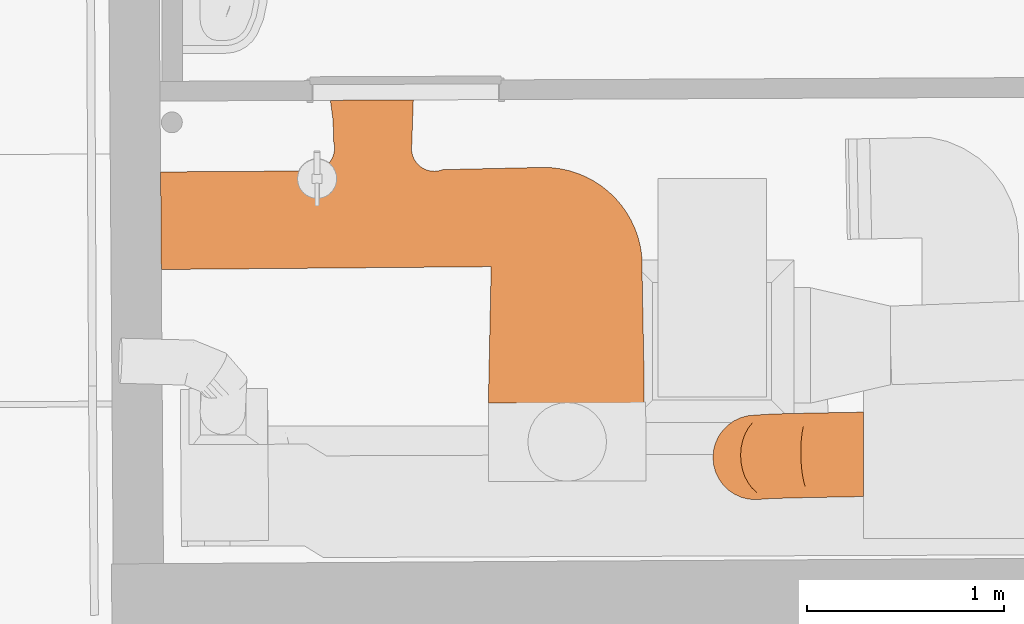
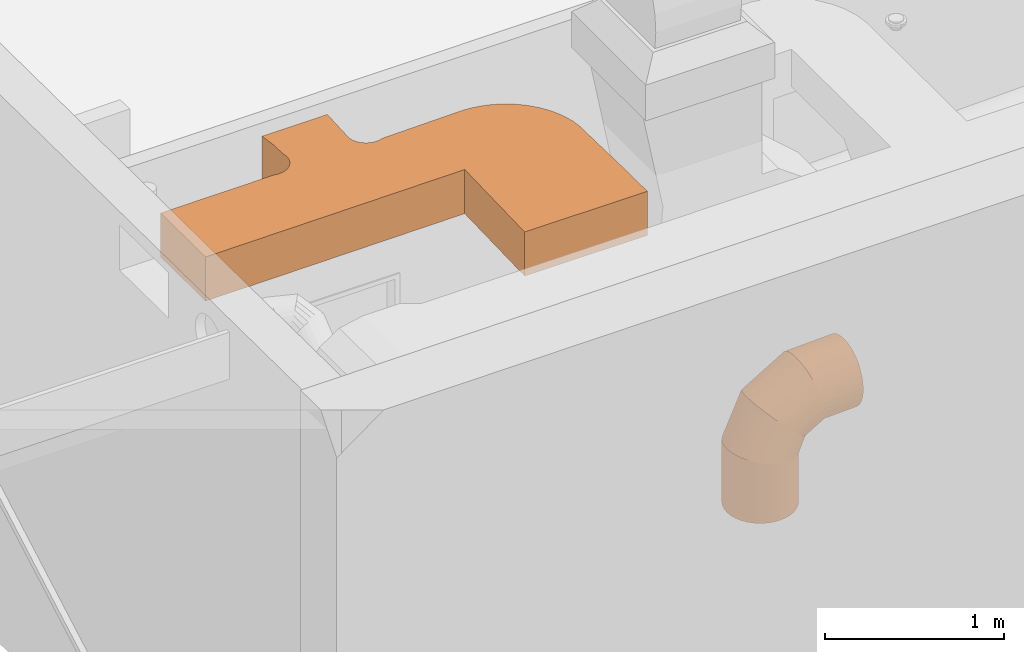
# One storey, part 147 of 158: 2 proxies.
"""IFC2X3 building model written with IfcOpenShell, lengths in metres."""

from ifc_helpers import new_model, entity, si_unit, converted_unit, derived_unit, money_unit, direction, frame, origin_with_axes, place, context, subcontext, project, spatial, faceted_brep, material, type_object, element, save


model = new_model("IFC2X3")

# Units and contexts
model_context = context("Model", 3, precision=1e-05, world=origin_with_axes(), true_north=direction((0.0, 1.0)))
body_context = subcontext(model_context, "Body", "Model", "MODEL_VIEW")
ifc_project = project(units=[si_unit("LENGTHUNIT", "METRE"), si_unit("AREAUNIT", "SQUARE_METRE"), si_unit("VOLUMEUNIT", "CUBIC_METRE"), converted_unit("PLANEANGLEUNIT", "DEGREE", entity("IfcPlaneAngleMeasure", 0.0174532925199), si_unit("PLANEANGLEUNIT", "RADIAN"), dimensions=[0, 0, 0, 0, 0, 0, 0]), money_unit("EUR"), converted_unit("TIMEUNIT", "Year", entity("IfcTimeMeasure", 31556926.0), si_unit("TIMEUNIT", "SECOND"), dimensions=[0, 0, 1, 0, 0, 0, 0]), si_unit("MASSUNIT", "GRAM", prefix="KILO"), si_unit("THERMODYNAMICTEMPERATUREUNIT", "DEGREE_CELSIUS"), si_unit("LUMINOUSINTENSITYUNIT", "LUMEN"), si_unit("ENERGYUNIT", "JOULE", prefix="MEGA"), derived_unit("THERMALCONDUCTANCEUNIT", [(si_unit("POWERUNIT", "WATT"), 1), (si_unit("LENGTHUNIT", "METRE"), -1), (si_unit("THERMODYNAMICTEMPERATUREUNIT", "KELVIN"), -1)]), derived_unit("SPECIFICHEATCAPACITYUNIT", [(si_unit("ENERGYUNIT", "JOULE"), 1), (si_unit("MASSUNIT", "GRAM", prefix="KILO"), -1), (si_unit("THERMODYNAMICTEMPERATUREUNIT", "KELVIN"), -1)]), derived_unit("MASSDENSITYUNIT", [(si_unit("MASSUNIT", "GRAM", prefix="KILO"), 1), (si_unit("VOLUMEUNIT", "CUBIC_METRE"), -1)])], contexts=[model_context])

# Site, building, storey
site_placement = place(None, origin_with_axes())
site = spatial("IfcSite", under=ifc_project, at=site_placement, Name="Gelände", CompositionType="ELEMENT")
building_placement = place(site_placement, origin_with_axes())
building = spatial("IfcBuilding", under=site, at=building_placement, Name="Gebäude", CompositionType="ELEMENT")
storey_placement = place(building_placement, origin_with_axes())
storey = spatial("IfcBuildingStorey", under=building, at=storey_placement, Name="ERDGESCHOSS", CompositionType="ELEMENT", Elevation=0.0)

# Proxies
ifc_material = material(Name="56_Metall, Stahl verzinkt")
building_element_proxy_type = type_object("IfcBuildingElementProxyType", Name="56_Metall, Stahl verzinkt", PredefinedType="NOTDEFINED")
proxy_1_placement = place(storey_placement, frame((-23.3833256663, 32.8052178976, 0.641435), z_axis=(0.0, 0.0, 1.0), x_axis=(1.0, 0.0, 0.0)))
element("IfcBuildingElementProxy", 1, at=proxy_1_placement, inside=storey, type_object=building_element_proxy_type, material=ifc_material, Name="Morph-325", context=body_context, shape_type="Brep", body=[
    faceted_brep([(-0.0179355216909, 0.496075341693, 4.06821488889), (-0.0179355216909, 0.496075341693, 3.76781288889), (-0.0142821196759, -0.000105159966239, 3.76781288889), (-0.0142821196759, -0.000105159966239, 4.06821488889), (0.717222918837, 0.500838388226, 4.06821488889), (0.717222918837, 0.500838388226, 3.76781288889), (0.727539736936, 0.498766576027, 3.76781288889), (0.737998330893, 0.497604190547, 3.76781288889), (0.748518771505, 0.49736011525, 3.76781288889), (0.759020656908, 0.498036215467, 3.76781288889), (0.769423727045, 0.499627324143, 3.76781288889), (0.779648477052, 0.502121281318, 3.76781288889), (0.789616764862, 0.505499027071, 3.76781288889), (0.799252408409, 0.509734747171, 3.76781288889), (0.808481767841, 0.514796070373, 3.76781288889), (0.817234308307, 0.520644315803, 3.76781288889), (0.82544313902, 0.527234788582, 3.76781288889), (0.833045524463, 0.5345171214, 3.76781288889), (0.83998336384, 0.542435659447, 3.76781288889), (0.846203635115, 0.55092988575, 3.76781288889), (0.85165880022, 0.559934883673, 3.76781288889), (0.856307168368, 0.569381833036, 3.76781288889), (0.860113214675, 0.579198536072, 3.76781288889), (0.863047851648, 0.58930996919, 3.76781288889), (0.865088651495, 0.599638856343, 3.76781288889), (0.866220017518, 0.610106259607, 3.76781288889), (0.866433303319, 0.62063218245, 3.76781288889), (0.865726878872, 0.631136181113, 3.76781288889), (0.864106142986, 0.641537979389, 3.76781288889), (0.861583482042, 0.651758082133, 3.76781288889), (0.859479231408, 0.75459927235, 3.76781288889), (0.845722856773, 0.860223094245, 3.76781288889), (1.26717317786, 0.862056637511, 3.76781288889), (1.25842250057, 0.610566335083, 3.76781288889), (1.25925216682, 0.600085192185, 3.76781288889), (1.26103568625, 0.589723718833, 3.76781288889), (1.26375816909, 0.579568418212, 3.76781288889), (1.26739688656, 0.569704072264, 3.76781288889), (1.2719214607, 0.560213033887, 3.76781288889), (1.2772941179, 0.551174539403, 3.76781288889), (1.28347000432, 0.542664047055, 3.76781288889), (1.29039756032, 0.534752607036, 3.76781288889), (1.29801895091, 0.527506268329, 3.76781288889), (1.3062705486, 0.520985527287, 3.76781288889), (1.31508346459, 0.515244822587, 3.76781288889), (1.32438412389, 0.510332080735, 3.76781288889), (1.33409487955, 0.50628831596, 3.76781288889), (1.34413466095, 0.503147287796, 3.76781288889), (1.35441965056, 0.500935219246, 3.76781288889), (1.36486398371, 0.499670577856, 3.76781288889), (1.37538046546, 0.499363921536, 3.76781288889), (1.38588129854, 0.500017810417, 3.76781288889), (1.3962788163, 0.501626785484, 3.76781288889), (1.40648621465, 0.504177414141, 3.76781288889), (1.4164182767, 0.507648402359, 3.76781288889), (1.9270160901, 0.51908666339, 3.76781288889), (1.9726043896, 0.517367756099, 3.76781288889), (2.0178483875, 0.511502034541, 3.76781288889), (2.06237172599, 0.501538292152, 3.76781288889), (2.10580404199, 0.487559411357, 3.76781288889), (2.147784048, 0.469681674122, 3.76781288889), (2.1879625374, 0.448053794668, 3.76781288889), (2.22600528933, 0.422855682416, 3.76781288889), (2.26159584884, 0.394296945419, 3.76781288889), (2.29443815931, 0.362615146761, 3.76781288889), (2.32425902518, 0.328073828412, 3.76781288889), (2.35081038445, 0.290960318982, 3.76781288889), (2.37387137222, 0.251583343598, 3.76781288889), (2.3932501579, 0.210270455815, 3.76781288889), (2.40878554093, 0.167365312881, 3.76781288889), (2.42034829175, 0.123224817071, 3.76781288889), (2.42784222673, 0.0782161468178, 3.76781288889), (2.4312050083, 0.0327137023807, 3.76781288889), (2.43040866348, -0.0129040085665, 3.76781288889), (2.43927064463, -0.479969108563, 3.76781288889), (2.43927064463, -0.678813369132, 3.76781288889), (1.6487870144, -0.678813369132, 3.76781288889), (1.66294415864, 0.0142541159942, 3.76781288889), (1.66294415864, 0.0142541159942, 4.06821488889), (0.748518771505, 0.49736011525, 4.06821488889), (0.737998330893, 0.497604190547, 4.06821488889), (0.727539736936, 0.498766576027, 4.06821488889), (1.6487870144, -0.678813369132, 4.06821488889), (2.43927064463, -0.678813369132, 4.06821488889), (2.43927064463, -0.479969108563, 4.06821488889), (2.43040866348, -0.0129040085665, 4.06821488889), (2.4312050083, 0.0327137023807, 4.06821488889), (2.42784222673, 0.0782161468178, 4.06821488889), (2.42034829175, 0.123224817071, 4.06821488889), (2.40878554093, 0.167365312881, 4.06821488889), (2.3932501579, 0.210270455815, 4.06821488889), (2.37387137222, 0.251583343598, 4.06821488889), (2.35081038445, 0.290960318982, 4.06821488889), (2.32425902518, 0.328073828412, 4.06821488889), (2.29443815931, 0.362615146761, 4.06821488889), (2.26159584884, 0.394296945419, 4.06821488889), (2.22600528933, 0.422855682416, 4.06821488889), (2.1879625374, 0.448053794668, 4.06821488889), (2.147784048, 0.469681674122, 4.06821488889), (2.10580404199, 0.487559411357, 4.06821488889), (2.06237172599, 0.501538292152, 4.06821488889), (2.0178483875, 0.511502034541, 4.06821488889), (1.9726043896, 0.517367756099, 4.06821488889), (1.9270160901, 0.51908666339, 4.06821488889), (1.4164182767, 0.507648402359, 4.06821488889), (1.40648621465, 0.504177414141, 4.06821488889), (1.3962788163, 0.501626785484, 4.06821488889), (1.38588129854, 0.500017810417, 4.06821488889), (1.37538046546, 0.499363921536, 4.06821488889), (1.36486398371, 0.499670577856, 4.06821488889), (1.35441965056, 0.500935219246, 4.06821488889), (1.34413466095, 0.503147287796, 4.06821488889), (1.33409487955, 0.50628831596, 4.06821488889), (1.32438412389, 0.510332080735, 4.06821488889), (1.31508346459, 0.515244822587, 4.06821488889), (1.3062705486, 0.520985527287, 4.06821488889), (1.29801895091, 0.527506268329, 4.06821488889), (1.29039756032, 0.534752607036, 4.06821488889), (1.28347000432, 0.542664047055, 4.06821488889), (1.2772941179, 0.551174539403, 4.06821488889), (1.2719214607, 0.560213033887, 4.06821488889), (1.26739688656, 0.569704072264, 4.06821488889), (1.26375816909, 0.579568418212, 4.06821488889), (1.26103568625, 0.589723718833, 4.06821488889), (1.25925216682, 0.600085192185, 4.06821488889), (1.25842250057, 0.610566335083, 4.06821488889), (1.26717317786, 0.862056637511, 4.06821488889), (0.845722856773, 0.860223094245, 4.06821488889), (0.859479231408, 0.75459927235, 4.06821488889), (0.861583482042, 0.651758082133, 4.06821488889), (0.864106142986, 0.641537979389, 4.06821488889), (0.865726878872, 0.631136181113, 4.06821488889), (0.866433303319, 0.62063218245, 4.06821488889), (0.866220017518, 0.610106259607, 4.06821488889), (0.865088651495, 0.599638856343, 4.06821488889), (0.863047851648, 0.58930996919, 4.06821488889), (0.860113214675, 0.579198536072, 4.06821488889), (0.856307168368, 0.569381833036, 4.06821488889), (0.85165880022, 0.559934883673, 4.06821488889), (0.846203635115, 0.55092988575, 4.06821488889), (0.83998336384, 0.542435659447, 4.06821488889), (0.833045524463, 0.5345171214, 4.06821488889), (0.82544313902, 0.527234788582, 4.06821488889), (0.817234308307, 0.520644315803, 4.06821488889), (0.808481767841, 0.514796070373, 4.06821488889), (0.799252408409, 0.509734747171, 4.06821488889), (0.789616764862, 0.505499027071, 4.06821488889), (0.779648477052, 0.502121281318, 4.06821488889), (0.769423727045, 0.499627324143, 4.06821488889), (0.759020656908, 0.498036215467, 4.06821488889)], [[[0, 1, 2, 3]], [[1, 0, 4, 5]], [[2, 1, 5, 6, 7, 8, 9, 10, 11, 12, 13, 14, 15, 16, 17, 18, 19, 20, 21, 22, 23, 24, 25, 26, 27, 28, 29, 30, 31, 32, 33, 34, 35, 36, 37, 38, 39, 40, 41, 42, 43, 44, 45, 46, 47, 48, 49, 50, 51, 52, 53, 54, 55, 56, 57, 58, 59, 60, 61, 62, 63, 64, 65, 66, 67, 68, 69, 70, 71, 72, 73, 74, 75, 76, 77]], [[3, 2, 77, 78]], [[79, 80, 81, 4, 0, 3, 78, 82, 83, 84, 85, 86, 87, 88, 89, 90, 91, 92, 93, 94, 95, 96, 97, 98, 99, 100, 101, 102, 103, 104, 105, 106, 107, 108, 109, 110, 111, 112, 113, 114, 115, 116, 117, 118, 119, 120, 121, 122, 123, 124, 125, 126, 127, 128, 129, 130, 131, 132, 133, 134, 135, 136, 137, 138, 139, 140, 141, 142, 143, 144, 145, 146, 147, 148, 149]], [[81, 6, 5, 4]], [[7, 6, 81, 80]], [[8, 7, 80, 79]], [[9, 8, 79, 149]], [[9, 149, 148, 10]], [[11, 10, 148, 147]], [[12, 11, 147, 146]], [[13, 12, 146, 145]], [[14, 13, 145, 144]], [[15, 14, 144, 143]], [[16, 15, 143, 142]], [[17, 16, 142, 141]], [[18, 17, 141, 140]], [[19, 18, 140, 139]], [[20, 19, 139, 138]], [[21, 20, 138, 137]], [[21, 137, 136, 22]], [[22, 136, 135, 23]], [[24, 23, 135, 134]], [[25, 24, 134, 133]], [[26, 25, 133, 132]], [[27, 26, 132, 131]], [[28, 27, 131, 130]], [[29, 28, 130, 129]], [[30, 29, 129, 128]], [[127, 31, 30, 128]], [[31, 127, 126, 32]], [[125, 33, 32, 126]], [[34, 33, 125, 124]], [[35, 34, 124, 123]], [[36, 35, 123, 122]], [[37, 36, 122, 121]], [[38, 37, 121, 120]], [[39, 38, 120, 119]], [[40, 39, 119, 118]], [[41, 40, 118, 117]], [[42, 41, 117, 116]], [[43, 42, 116, 115]], [[114, 44, 43, 115]], [[45, 44, 114, 113]], [[46, 45, 113, 112]], [[47, 46, 112, 111]], [[110, 48, 47, 111]], [[48, 110, 109, 49]], [[50, 49, 109, 108]], [[51, 50, 108, 107]], [[51, 107, 106, 52]], [[53, 52, 106, 105]], [[54, 53, 105, 104]], [[55, 54, 104, 103]], [[56, 55, 103, 102]], [[57, 56, 102, 101]], [[58, 57, 101, 100]], [[59, 58, 100, 99]], [[60, 59, 99, 98]], [[61, 60, 98, 97]], [[96, 62, 61, 97]], [[63, 62, 96, 95]], [[64, 63, 95, 94]], [[65, 64, 94, 93]], [[66, 65, 93, 92]], [[67, 66, 92, 91]], [[68, 67, 91, 90]], [[69, 68, 90, 89]], [[70, 69, 89, 88]], [[71, 70, 88, 87]], [[72, 71, 87, 86]], [[73, 72, 86, 85]], [[74, 73, 85, 84]], [[75, 74, 84, 83]], [[82, 76, 75, 83]], [[77, 76, 82, 78]]]),
])
proxy_2_placement = place(storey_placement, origin_with_axes())
element("IfcBuildingElementProxy", 2, at=proxy_2_placement, inside=storey, type_object=building_element_proxy_type, material=ifc_material, Name="Stütze-012", context=body_context, shape_type="Brep", body=[
    faceted_brep([(-20.4129331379, 31.6377203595, 2.56755252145), (-20.3755715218, 31.6347821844, 2.56755252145), (-20.3755715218, 31.6347821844, 2.95326130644), (-20.4129331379, 31.6377203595, 2.96204597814), (-20.4492169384, 31.6471016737, 2.56755252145), (-20.4833204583, 31.6626410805, 2.56755252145), (-20.5142074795, 31.6838664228, 2.56755252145), (-20.5409395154, 31.7101327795, 2.56755252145), (-20.5627043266, 31.7406420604, 2.56755252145), (-20.5788406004, 31.7744672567, 2.56755252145), (-20.5888580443, 31.8105806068, 2.56755252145), (-20.5924522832, 31.8478848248, 2.56755252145), (-20.5895141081, 31.8852464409, 2.56755252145), (-20.5801327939, 31.9215302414, 2.56755252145), (-20.5645933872, 31.9556337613, 2.56755252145), (-20.5433680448, 31.9865207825, 2.56755252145), (-20.5171016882, 32.0132528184, 2.56755252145), (-20.4865924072, 32.0350176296, 2.56755252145), (-20.4527672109, 32.0511539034, 2.56755252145), (-20.4166538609, 32.0611713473, 2.56755252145), (-20.3793496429, 32.0647655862, 2.56755252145), (-20.3419880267, 32.0618274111, 2.56755252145), (-20.3057042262, 32.0524460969, 2.56755252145), (-20.2716007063, 32.0369066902, 2.56755252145), (-20.2407136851, 32.0156813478, 2.56755252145), (-20.2139816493, 31.9894149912, 2.56755252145), (-20.192216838, 31.9589057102, 2.56755252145), (-20.1760805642, 31.9250805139, 2.56755252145), (-20.1660631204, 31.8889671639, 2.56755252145), (-20.1624688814, 31.8516629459, 2.56755252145), (-20.1654070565, 31.8143013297, 2.56755252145), (-20.1747883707, 31.7780175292, 2.56755252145), (-20.1903277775, 31.7439140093, 2.56755252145), (-20.2115531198, 31.7130269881, 2.56755252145), (-20.2378194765, 31.6862949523, 2.56755252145), (-20.2683287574, 31.664530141, 2.56755252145), (-20.3021539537, 31.6483938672, 2.56755252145), (-20.3382673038, 31.6383764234, 2.56755252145), (-20.3382673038, 31.6383764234, 2.94439593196), (-20.2900800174, 31.6407445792, 3.14564825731), (-20.4492169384, 31.6471016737, 2.97048302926), (-20.4833204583, 31.6626410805, 2.97831610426), (-20.5142074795, 31.6838664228, 2.98530719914), (-20.5409395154, 31.7101327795, 2.99124389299), (-20.5627043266, 31.7406420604, 2.9959458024), (-20.5788406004, 31.7744672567, 2.99927006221), (-20.5888580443, 31.8105806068, 3.00111566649), (-20.5924522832, 31.8478848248, 3.00142653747), (-20.5895141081, 31.8852464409, 3.00019322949), (-20.5801327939, 31.9215302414, 2.99745321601), (-20.5645933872, 31.9556337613, 2.99328975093), (-20.5433680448, 31.9865207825, 2.98782933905), (-20.5171016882, 32.0132528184, 2.9812378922), (-20.4865924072, 32.0350176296, 2.97371568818), (-20.4527672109, 32.0511539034, 2.96549128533), (-20.4166538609, 32.0611713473, 2.95681457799), (-20.3793496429, 32.0647655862, 2.94794920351), (-20.3419880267, 32.0618274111, 2.9391645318), (-20.3057042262, 32.0524460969, 2.93072748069), (-20.2716007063, 32.0369066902, 2.92289440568), (-20.2407136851, 32.0156813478, 2.91590331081), (-20.2139816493, 31.9894149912, 2.90996661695), (-20.192216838, 31.9589057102, 2.90526470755), (-20.1760805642, 31.9250805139, 2.90194044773), (-20.1660631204, 31.8889671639, 2.90009484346), (-20.1624688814, 31.8516629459, 2.89978397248), (-20.1654070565, 31.8143013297, 2.90101728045), (-20.1747883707, 31.7780175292, 2.90375729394), (-20.1903277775, 31.7439140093, 2.90792075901), (-20.2115531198, 31.7130269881, 2.9133811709), (-20.2378194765, 31.6862949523, 2.91997261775), (-20.2683287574, 31.664530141, 2.92749482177), (-20.3021539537, 31.6483938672, 2.93571922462), (-20.2618191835, 31.6430704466, 3.1185786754), (-20.3183165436, 31.6449479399, 3.17247142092), (-20.3456708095, 31.6555528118, 3.19823315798), (-20.3713116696, 31.6722369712, 3.22215071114), (-20.3944600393, 31.6944934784, 3.24349735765), (-20.4144125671, 31.7216460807, 3.26162449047), (-20.4305630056, 31.75286976, 3.27598132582), (-20.4424206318, 31.7872158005, 3.28613163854), (-20.4496251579, 31.8236406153, 3.29176701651), (-20.4519576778, 31.8610374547, 3.29271623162), (-20.4493473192, 31.8982700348, 3.28895044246), (-20.4418733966, 31.9342070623, 3.28058407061), (-20.4297630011, 31.967756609, 3.26787132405), (-20.4133841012, 31.9978992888, 3.25119847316), (-20.3932343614, 32.0237192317, 3.23107211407), (-20.3699260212, 32.0444319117, 3.20810377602), (-20.344167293, 32.0594079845, 3.18299134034), (-20.3167408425, 32.0681924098, 3.15649783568), (-20.2884800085, 32.0705182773, 3.12942825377), (-20.2602434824, 32.0663149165, 3.10260509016), (-20.2328892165, 32.0557100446, 3.0768433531), (-20.2072483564, 32.0390258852, 3.05292579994), (-20.1840999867, 32.016769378, 3.03157915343), (-20.1641474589, 31.9896167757, 3.01345202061), (-20.1479970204, 31.9583930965, 2.99909518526), (-20.1361393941, 31.9240470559, 2.98894487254), (-20.1289348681, 31.8876222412, 2.98330949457), (-20.1266023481, 31.8502254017, 2.98236027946), (-20.1292127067, 31.8129928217, 2.98612606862), (-20.1366866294, 31.7770557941, 2.99449244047), (-20.1487970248, 31.7435062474, 3.00720518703), (-20.1651759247, 31.7133635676, 3.02387803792), (-20.1853256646, 31.6875436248, 3.04400439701), (-20.2086340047, 31.6668309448, 3.06697273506), (-20.234392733, 31.6518548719, 3.09208517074), (-20.0758661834, 31.6472613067, 3.22632922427), (-20.0860471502, 31.6457412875, 3.26353386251), (-20.0660338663, 31.6552594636, 3.18991635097), (-20.0962674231, 31.650745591, 3.30039982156), (-20.1062164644, 31.6621221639, 3.33580694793), (-20.1155919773, 31.6795253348, 3.368679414), (-20.1241090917, 31.7024263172, 3.39801840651), (-20.1315090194, 31.7301292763, 3.42293247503), (-20.1375669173, 31.7617924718, 3.44266461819), (-20.1420987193, 31.7964538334, 3.45661528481), (-20.1449667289, 31.8330601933, 3.46436059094), (-20.1460838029, 31.8704992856, 3.46566519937), (-20.1454159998, 31.9076335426, 3.46048947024), (-20.1429836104, 31.9433346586, 3.44899066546), (-20.1388605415, 31.9765178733, 3.43151817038), (-20.1331720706, 32.0061749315, 3.40860287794), (-20.1260910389, 32.0314047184, 3.3809410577), (-20.1178326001, 32.0514406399, 3.34937320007), (-20.1086476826, 32.0656739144, 3.31485847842), (-20.0988153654, 32.0736720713, 3.27844560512), (-20.0886343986, 32.0751920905, 3.24124096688), (-20.0784141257, 32.0701877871, 3.20437500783), (-20.0684650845, 32.0588112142, 3.16896788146), (-20.0590895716, 32.0414080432, 3.13609541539), (-20.0505724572, 32.0185070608, 3.10675642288), (-20.0431725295, 31.9908041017, 3.08184235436), (-20.0371146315, 31.9591409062, 3.06211021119), (-20.0325828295, 31.9244795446, 3.04815954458), (-20.02971482, 31.8878731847, 3.04041423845), (-20.0285977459, 31.8504340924, 3.03910963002), (-20.029265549, 31.8132998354, 3.04428535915), (-20.0316979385, 31.7775987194, 3.05578416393), (-20.0358210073, 31.7444155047, 3.07325665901), (-20.0415094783, 31.7147584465, 3.09617195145), (-20.0485905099, 31.6895286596, 3.12383377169), (-20.0568489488, 31.6694927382, 3.15540162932), (-19.8279485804, 31.6595298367, 3.1960416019), (-19.8287467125, 31.6517169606, 3.23268645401), (-19.8296822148, 31.6503865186, 3.27012811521), (-19.8273799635, 31.6735865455, 3.16130524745), (-19.8273799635, 31.6595400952, 3.19605617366), (-19.8273799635, 31.6517416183, 3.23272147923), (-19.8273799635, 31.6504280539, 3.27018711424), (-19.8307266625, 31.6555789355, 3.30722893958), (-19.8273799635, 31.6556393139, 3.30731470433), (-19.8318483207, 31.6671364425, 3.34286163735), (-19.8330131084, 31.6847078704, 3.37594352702), (-19.834185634, 31.7077593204, 3.40546943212), (-19.8353302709, 31.7355903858, 3.43054222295), (-19.83641224, 31.7673554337, 3.45040007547), (-19.8373986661, 31.8020892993, 3.46443961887), (-19.8382595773, 31.8387366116, 3.47223426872), (-19.8389688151, 31.8761838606, 3.47354718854), (-19.8395048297, 31.9132932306, 3.46833848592), (-19.8398513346, 31.9489371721, 3.45676642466), (-19.8399978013, 31.982032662, 3.43918261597), (-19.8399397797, 32.0115741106, 3.416121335), (-19.8396790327, 32.036663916, 3.38828328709), (-19.8392234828, 32.0565397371, 3.35651431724), (-19.8385869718, 32.0705976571, 3.32177970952), (-19.8377888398, 32.0784105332, 3.28513485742), (-19.8368533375, 32.0797409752, 3.24769319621), (-19.8358088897, 32.0745485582, 3.21059237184), (-19.8346872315, 32.0629910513, 3.17495967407), (-19.8335224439, 32.0454196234, 3.1418777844), (-19.8323499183, 32.0223681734, 3.11235187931), (-19.8312052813, 31.994537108, 3.08727908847), (-19.8301233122, 31.9627720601, 3.06742123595), (-19.8291368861, 31.9280381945, 3.05338169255), (-19.828275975, 31.8913908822, 3.0455870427), (-19.8275667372, 31.8539436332, 3.04427412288), (-19.8273799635, 31.8168281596, 3.04947384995), (-19.8273799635, 31.8167673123, 3.049493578), (-19.8273799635, 31.781178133, 3.06103699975), (-19.8273799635, 31.7810679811, 3.06109547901), (-19.8273799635, 31.7480800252, 3.07861703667), (-19.8273799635, 31.7479642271, 3.07870738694), (-19.8273799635, 31.7185395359, 3.10167980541), (-19.8273799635, 31.718450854, 3.10177816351), (-19.8273799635, 31.6934542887, 3.1295245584), (-19.8273799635, 31.6934090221, 3.12959688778), (-19.8273799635, 31.8539470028, 3.04427890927), (-19.8273799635, 31.8914070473, 3.04561000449), (-19.8273799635, 31.9280698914, 3.05342671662), (-19.8273799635, 31.9628215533, 3.06749153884), (-19.8273799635, 31.9946061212, 3.08737711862), (-19.8273799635, 32.0224578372, 3.11247924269), (-19.8273799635, 32.0455304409, 3.14203519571), (-19.8273799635, 32.0631228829, 3.175146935), (-19.8273799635, 32.0747006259, 3.21080837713), (-19.8273799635, 32.0799118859, 3.24793596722), (-19.8273799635, 32.0785983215, 3.28540160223), (-19.8273799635, 32.0707998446, 3.3220669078), (-19.8273799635, 32.056753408, 3.35681782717), (-19.8273799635, 32.0368858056, 3.38859847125), (-19.8273799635, 32.0118007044, 3.41644320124), (-19.8273799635, 31.9822603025, 3.43950596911), (-19.8273799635, 31.9491621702, 3.45708602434), (-19.8273799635, 31.9135119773, 3.46864920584), (-19.8273799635, 31.876392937, 3.47384417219), (-19.8273799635, 31.8389328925, 3.47251307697), (-19.8273799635, 31.8022700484, 3.46469636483), (-19.8273799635, 31.7675183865, 3.45063154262), (-19.8273799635, 31.7357338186, 3.43074596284), (-19.8273799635, 31.7078821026, 3.40564383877), (-19.8273799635, 31.6848094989, 3.37608788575), (-19.8273799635, 31.6672170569, 3.34297614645)], [[[0, 1, 2, 3]], [[4, 5, 6, 7, 8, 9, 10, 11, 12, 13, 14, 15, 16, 17, 18, 19, 20, 21, 22, 23, 24, 25, 26, 27, 28, 29, 30, 31, 32, 33, 34, 35, 36, 37, 1, 0]], [[1, 37, 38, 2]], [[3, 2, 39]], [[4, 0, 3, 40]], [[5, 4, 40, 41]], [[6, 5, 41, 42]], [[6, 42, 43, 7]], [[8, 7, 43, 44]], [[9, 8, 44, 45]], [[10, 9, 45, 46]], [[11, 10, 46, 47]], [[12, 11, 47, 48]], [[13, 12, 48, 49]], [[14, 13, 49, 50]], [[15, 14, 50, 51]], [[16, 15, 51, 52]], [[16, 52, 53, 17]], [[18, 17, 53, 54]], [[19, 18, 54, 55]], [[20, 19, 55, 56]], [[21, 20, 56, 57]], [[22, 21, 57, 58]], [[22, 58, 59, 23]], [[24, 23, 59, 60]], [[25, 24, 60, 61]], [[26, 25, 61, 62]], [[26, 62, 63, 27]], [[28, 27, 63, 64]], [[29, 28, 64, 65]], [[30, 29, 65, 66]], [[67, 31, 30, 66]], [[68, 32, 31, 67]], [[33, 32, 68, 69]], [[34, 33, 69, 70]], [[35, 34, 70, 71]], [[72, 36, 35, 71]], [[37, 36, 72, 38]], [[2, 38, 73]], [[39, 2, 73]], [[74, 3, 39]], [[40, 3, 74]], [[41, 40, 75]], [[42, 41, 76]], [[42, 77, 43]], [[44, 43, 78]], [[45, 44, 79]], [[46, 45, 80]], [[47, 46, 81]], [[48, 47, 82]], [[49, 48, 83]], [[50, 49, 84]], [[51, 50, 85]], [[52, 51, 86]], [[53, 52, 87]], [[54, 53, 88]], [[55, 54, 89]], [[56, 55, 90]], [[57, 56, 91]], [[58, 57, 92]], [[59, 58, 93]], [[60, 59, 94]], [[61, 60, 95]], [[62, 61, 96]], [[63, 62, 97]], [[64, 63, 98]], [[65, 64, 99]], [[66, 65, 100]], [[101, 67, 66]], [[68, 67, 102]], [[69, 68, 103]], [[70, 69, 104]], [[71, 70, 105]], [[72, 71, 106]], [[38, 72, 107]], [[38, 107, 73]], [[39, 73, 108]], [[74, 39, 109]], [[40, 74, 75]], [[76, 41, 75]], [[77, 42, 76]], [[43, 77, 78]], [[79, 44, 78]], [[45, 79, 80]], [[81, 46, 80]], [[47, 81, 82]], [[48, 82, 83]], [[84, 49, 83]], [[84, 85, 50]], [[51, 85, 86]], [[52, 86, 87]], [[53, 87, 88]], [[89, 54, 88]], [[55, 89, 90]], [[56, 90, 91]], [[57, 91, 92]], [[58, 92, 93]], [[94, 59, 93]], [[95, 60, 94]], [[96, 61, 95]], [[97, 62, 96]], [[98, 63, 97]], [[99, 64, 98]], [[100, 65, 99]], [[101, 66, 100]], [[102, 67, 101]], [[103, 68, 102]], [[69, 103, 104]], [[105, 70, 104]], [[106, 71, 105]], [[72, 106, 107]], [[73, 107, 110]], [[73, 110, 108]], [[39, 108, 109]], [[111, 74, 109]], [[75, 74, 111]], [[76, 75, 112]], [[77, 76, 113]], [[78, 77, 114]], [[79, 78, 115]], [[80, 79, 116]], [[81, 80, 117]], [[82, 81, 118]], [[83, 82, 119]], [[84, 83, 120]], [[85, 84, 121]], [[86, 85, 122]], [[87, 86, 123]], [[88, 87, 124]], [[89, 88, 125]], [[90, 89, 126]], [[91, 90, 127]], [[92, 91, 128]], [[93, 92, 129]], [[94, 93, 130]], [[95, 94, 131]], [[96, 95, 132]], [[97, 96, 133]], [[98, 97, 134]], [[99, 98, 135]], [[100, 99, 136]], [[101, 100, 137]], [[102, 101, 138]], [[103, 102, 139]], [[104, 103, 140]], [[105, 104, 141]], [[106, 105, 142]], [[107, 106, 143]], [[110, 107, 143]], [[108, 110, 144]], [[109, 108, 145]], [[111, 109, 146]], [[112, 75, 111]], [[113, 76, 112]], [[77, 113, 114]], [[115, 78, 114]], [[116, 79, 115]], [[117, 80, 116]], [[81, 117, 118]], [[119, 82, 118]], [[83, 119, 120]], [[84, 120, 121]], [[122, 85, 121]], [[86, 122, 123]], [[87, 123, 124]], [[88, 124, 125]], [[89, 125, 126]], [[90, 126, 127]], [[128, 91, 127]], [[129, 92, 128]], [[130, 93, 129]], [[94, 130, 131]], [[95, 131, 132]], [[133, 96, 132]], [[97, 133, 134]], [[135, 98, 134]], [[136, 99, 135]], [[100, 136, 137]], [[138, 101, 137]], [[139, 102, 138]], [[103, 139, 140]], [[104, 140, 141]], [[142, 105, 141]], [[143, 106, 142]], [[110, 143, 147]], [[144, 110, 147, 148]], [[145, 108, 144, 148, 149]], [[109, 145, 149, 150, 146]], [[151, 111, 146, 150, 152]], [[112, 111, 151]], [[113, 112, 153]], [[114, 113, 154]], [[115, 114, 155]], [[116, 115, 156]], [[117, 116, 157]], [[117, 158, 118]], [[119, 118, 159]], [[120, 119, 160]], [[121, 120, 161]], [[122, 121, 162]], [[122, 163, 123]], [[124, 123, 164]], [[124, 165, 125]], [[126, 125, 166]], [[127, 126, 167]], [[128, 127, 168]], [[129, 128, 169]], [[130, 129, 170]], [[131, 130, 171]], [[132, 131, 172]], [[133, 132, 173]], [[134, 133, 174]], [[135, 134, 175]], [[136, 135, 176]], [[137, 136, 177]], [[138, 137, 178]], [[139, 138, 179, 180]], [[140, 139, 181, 182]], [[141, 140, 183, 184]], [[142, 141, 185, 186]], [[143, 142, 187, 188]], [[147, 143, 188]], [[147, 188, 187, 186, 185, 184, 183, 182, 181, 180, 179, 189, 190, 191, 192, 193, 194, 195, 196, 197, 198, 199, 200, 201, 202, 203, 204, 205, 206, 207, 208, 209, 210, 211, 212, 213, 214, 152, 150, 149, 148]], [[151, 152, 214, 153, 112]], [[113, 153, 214, 213, 154]], [[154, 213, 212, 155, 114]], [[115, 155, 212, 211, 156]], [[157, 116, 156, 211, 210]], [[117, 157, 210, 209, 158]], [[118, 158, 209, 208, 159]], [[119, 159, 208, 207, 160]], [[161, 120, 160, 207, 206]], [[162, 121, 161, 206, 205]], [[163, 122, 162, 205, 204]], [[123, 163, 204, 203, 164]], [[124, 164, 203, 202, 165]], [[166, 125, 165, 202, 201]], [[126, 166, 201, 200, 167]], [[127, 167, 200, 199, 168]], [[128, 168, 199, 198, 169]], [[170, 129, 169, 198, 197]], [[171, 130, 170, 197, 196]], [[172, 131, 171, 196, 195]], [[173, 132, 172, 195, 194]], [[174, 133, 173, 194, 193]], [[134, 174, 193, 192, 175]], [[176, 135, 175, 192, 191]], [[177, 136, 176, 191, 190]], [[178, 137, 177, 190, 189]], [[138, 178, 189, 179]], [[181, 139, 180]], [[140, 182, 183]], [[185, 141, 184]], [[187, 142, 186]]]),
])

save(model, "model.ifc")
